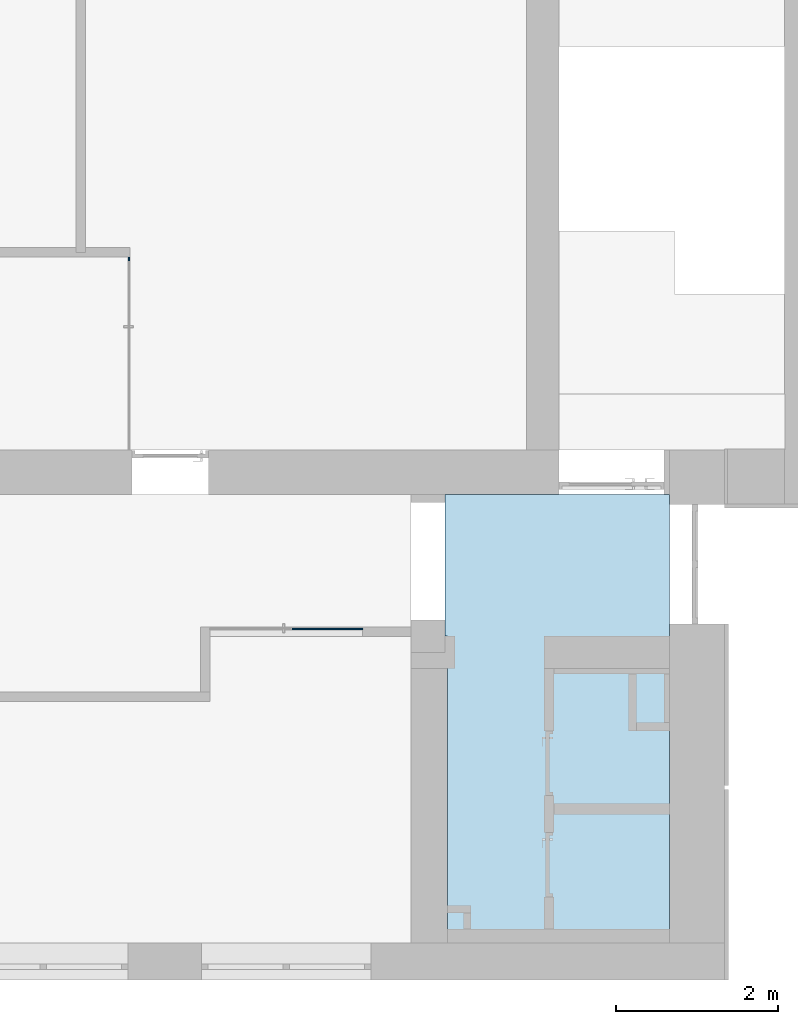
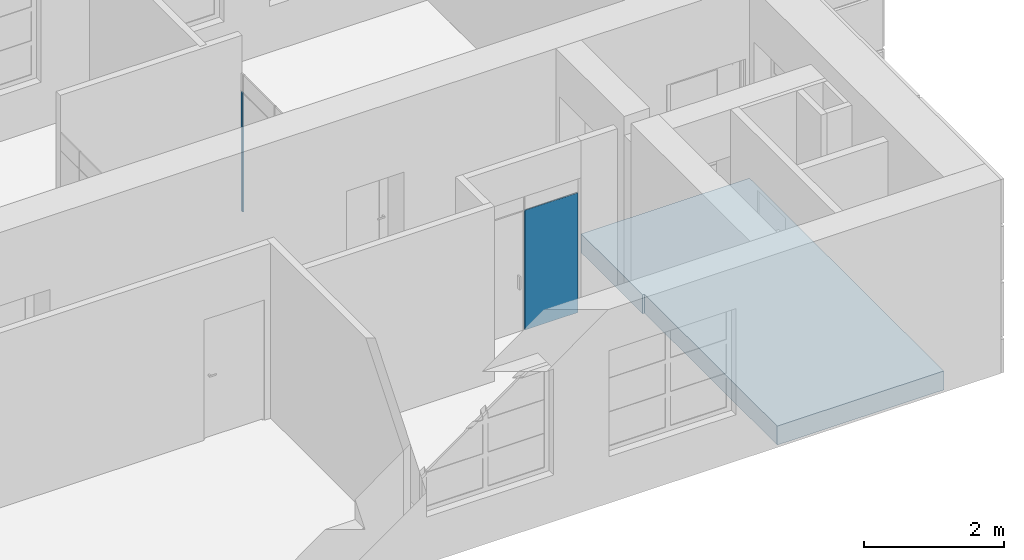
# One storey, part 26 of 66: 2 plates, 1 slab, 2 elements without a shape of their own.
"""IFC2X3 building model written with IfcOpenShell, lengths in millimetres."""

import ifcopenshell
import ifcopenshell.guid

model = None  # the IFC model being written
_history = None  # IfcOwnerHistory: only IFC2X3 demands one
_inside = {}  # id of a spatial element -> (the spatial element, [elements in it])
_under = {}  # id of a project, library or spatial element -> (it, [spatial elements below it])
_declared = {}  # id of a project -> (the project, [libraries it declares])
_typed = {}  # id of a type object -> (the type object, [elements of that type])
_made_of = {}  # id of a material, layer set ... -> (it, [elements and type objects made of it])


def new_model(schema):
    """Start an empty IFC model of exactly this schema.

    Asked for "IFC4X3", IfcOpenShell would pick the latest addendum, in which some entities
    have other attributes; the version numbers below select the first issue.
    IFC2X3 requires an IfcOwnerHistory on every rooted entity: one is made here for all.
    """
    global model, _history
    if schema == "IFC4X3":
        model = ifcopenshell.file(schema_version=(4, 3, 0, 0))
    else:
        model = ifcopenshell.file(schema=schema)
    _inside.clear()
    _under.clear()
    _declared.clear()
    _typed.clear()
    _made_of.clear()
    _history = None
    if model.schema == "IFC2X3":
        org = make("IfcOrganization", Name="unknown")
        user = make(
            "IfcPersonAndOrganization",
            ThePerson=make("IfcPerson", FamilyName="unknown"),
            TheOrganization=org,
        )
        app = make(
            "IfcApplication",
            ApplicationDeveloper=org,
            Version="unknown",
            ApplicationFullName="unknown",
            ApplicationIdentifier="unknown",
        )
        _history = make(
            "IfcOwnerHistory",
            OwningUser=user,
            OwningApplication=app,
            ChangeAction="ADDED",
            CreationDate=0,
        )
    return model


def make(cls, **values):
    """One entity of the class cls with the attributes given. An attribute that is None is left unset."""
    return model.create_entity(
        cls, **{name: value for name, value in values.items() if value is not None}
    )


def entity(cls, *values):
    """Any entity or typed value of the class cls, its attributes in the order of the schema. None: left unset."""
    e = model.create_entity(cls)
    for i, value in enumerate(values):
        if value is not None:
            e[i] = value
    return e


def rooted(cls, **values):
    """An entity with a GlobalId (a new one), such as an element, a storey or a relation."""
    return make(cls, GlobalId=ifcopenshell.guid.new(), OwnerHistory=_history, **values)


def si_unit(unit_type, name, prefix=None):
    """IfcSIUnit, for example si_unit("LENGTHUNIT", "METRE", prefix="MILLI")."""
    return make("IfcSIUnit", UnitType=unit_type, Prefix=prefix, Name=name)


def converted_unit(unit_type, name, factor, base, dimensions=None, offset=None):
    """IfcConversionBasedUnit, such as the inch: factor (a typed value) times the base unit."""
    return make(
        "IfcConversionBasedUnit"
        if offset is None
        else "IfcConversionBasedUnitWithOffset",
        ConversionOffset=offset,
        Dimensions=None
        if dimensions is None
        else entity("IfcDimensionalExponents", *dimensions),
        UnitType=unit_type,
        Name=name,
        ConversionFactor=make(
            "IfcMeasureWithUnit", ValueComponent=factor, UnitComponent=base
        ),
    )


def derived_unit(unit_type, elements):
    """IfcDerivedUnit: a product of units, each with its exponent."""
    return make(
        "IfcDerivedUnit",
        Elements=[
            make("IfcDerivedUnitElement", Unit=unit, Exponent=power)
            for unit, power in elements
        ],
        UnitType=unit_type,
    )


def assignment(units):
    """IfcUnitAssignment: the units of a project."""
    return None if units is None else make("IfcUnitAssignment", Units=units)


def point(xyz):
    """IfcCartesianPoint."""
    return None if xyz is None else make("IfcCartesianPoint", Coordinates=xyz)


def direction(xyz):
    """IfcDirection."""
    return None if xyz is None else make("IfcDirection", DirectionRatios=xyz)


def frame(location, z_axis=None, x_axis=None):
    """IfcAxis2Placement3D, a coordinate frame: its origin and axes. An axis left out is left unset."""
    return make(
        "IfcAxis2Placement3D",
        Location=point(location),
        Axis=direction(z_axis),
        RefDirection=direction(x_axis),
    )


def frame_2d(location, x_axis=None):
    """IfcAxis2Placement2D, a coordinate frame in the plane: its origin and x axis."""
    return make(
        "IfcAxis2Placement2D", Location=point(location), RefDirection=direction(x_axis)
    )


def origin():
    """The frame at (0, 0, 0) with its axes left unset."""
    return frame((0.0, 0.0, 0.0))


def origin_2d_with_axis():
    """The frame at (0, 0) in the plane with the x axis (1, 0) written out."""
    return frame_2d((0.0, 0.0), x_axis=(1.0, 0.0))


def place(relative_to, where):
    """IfcLocalPlacement: puts the frame where relative to a parent placement (None: the world)."""
    return make(
        "IfcLocalPlacement", PlacementRelTo=relative_to, RelativePlacement=where
    )


def context(
    kind, dimensions, precision=None, world=None, true_north=None, identifier=None
):
    """IfcGeometricRepresentationContext, for example the 3D "Model" context."""
    return make(
        "IfcGeometricRepresentationContext",
        ContextIdentifier=identifier,
        ContextType=kind,
        CoordinateSpaceDimension=dimensions,
        Precision=precision,
        WorldCoordinateSystem=world,
        TrueNorth=true_north,
    )


def subcontext(parent, identifier, kind, view, scale=None):
    """IfcGeometricRepresentationSubContext, for example "Body" below "Model"."""
    return make(
        "IfcGeometricRepresentationSubContext",
        ContextIdentifier=identifier,
        ContextType=kind,
        ParentContext=parent,
        TargetScale=scale,
        TargetView=view,
    )


def project(units=None, contexts=None):
    """IfcProject with its units and contexts."""
    return rooted(
        "IfcProject",
        Name="project",
        RepresentationContexts=contexts,
        UnitsInContext=assignment(units),
    )


def spatial(cls, under=None, at=None, **own):
    """A site, building, storey or space (cls), placed at a placement, below another one or the project."""
    s = rooted(cls, ObjectPlacement=at, **own)
    if under is not None:
        _under.setdefault(under.id(), (under, []))[1].append(s)
    return s


def polyline(points):
    """IfcPolyline through the points."""
    return make("IfcPolyline", Points=[point(p) for p in points])


def profile(cls, at=None, kind="AREA", **sizes):
    """A parametric profile (cls). Its sizes go by their IFC names, for example OverallWidth=200.0."""
    return make(cls, ProfileType=kind, Position=at, **sizes)


def rectangle(**sizes):
    """IfcRectangleProfileDef."""
    return profile("IfcRectangleProfileDef", **sizes)


def outline(outer, holes=None, kind="AREA"):
    """IfcArbitraryClosedProfileDef: a profile drawn as a closed curve; with holes, ...WithVoids."""
    if holes is None:
        return make("IfcArbitraryClosedProfileDef", ProfileType=kind, OuterCurve=outer)
    return make(
        "IfcArbitraryProfileDefWithVoids",
        ProfileType=kind,
        OuterCurve=outer,
        InnerCurves=holes,
    )


def extrude(swept, where, along, depth):
    """IfcExtrudedAreaSolid: the profile swept, set in the frame where, extruded along a direction by depth."""
    return make(
        "IfcExtrudedAreaSolid",
        SweptArea=swept,
        Position=where,
        ExtrudedDirection=direction(along),
        Depth=depth,
    )


def shape(context_of_items, identifier, shape_type, items):
    """IfcShapeRepresentation: the items that make up one representation, for example the "Body"."""
    return make(
        "IfcShapeRepresentation",
        ContextOfItems=context_of_items,
        RepresentationIdentifier=identifier,
        RepresentationType=shape_type,
        Items=items,
    )


def source(mapping_origin, context_of_items, identifier, shape_type, items):
    """IfcRepresentationMap: a shape defined once, which mapped items show again and again."""
    return make(
        "IfcRepresentationMap",
        MappingOrigin=mapping_origin,
        MappedRepresentation=shape(context_of_items, identifier, shape_type, items),
    )


def transform(
    local_origin,
    x_axis=None,
    y_axis=None,
    z_axis=None,
    scale=None,
    scale2=None,
    scale3=None,
    uniform=True,
):
    """IfcCartesianTransformationOperator3D, or its non-uniform kind. x_axis, y_axis, z_axis: its Axis1, 2, 3."""
    if uniform:
        return make(
            "IfcCartesianTransformationOperator3D",
            Axis1=direction(x_axis),
            Axis2=direction(y_axis),
            LocalOrigin=point(local_origin),
            Scale=scale,
            Axis3=direction(z_axis),
        )
    return make(
        "IfcCartesianTransformationOperator3DnonUniform",
        Axis1=direction(x_axis),
        Axis2=direction(y_axis),
        LocalOrigin=point(local_origin),
        Scale=scale,
        Axis3=direction(z_axis),
        Scale2=scale2,
        Scale3=scale3,
    )


def mapped(mapping_source, mapping_target):
    """IfcMappedItem: shows the shape of a source again, moved by a transform."""
    return make(
        "IfcMappedItem", MappingSource=mapping_source, MappingTarget=mapping_target
    )


def material(Name=None, Category=None):
    """IfcMaterial."""
    return make("IfcMaterial", Name=Name, Category=Category)


def layer(
    of_material, thickness, ventilated=None, Name=None, Category=None, Priority=None
):
    """IfcMaterialLayer: one layer of a wall or slab, of a material (None: an air gap)."""
    return make(
        "IfcMaterialLayer",
        Material=of_material,
        LayerThickness=thickness,
        IsVentilated=ventilated,
        Name=Name,
        Category=Category,
        Priority=Priority,
    )


def layer_set(layers, Name=None):
    """IfcMaterialLayerSet."""
    return make("IfcMaterialLayerSet", MaterialLayers=layers, LayerSetName=Name)


def layer_usage(for_layer_set, set_direction, sense, offset, extent=None):
    """IfcMaterialLayerSetUsage: how a layer set lies in its element."""
    return make(
        "IfcMaterialLayerSetUsage",
        ForLayerSet=for_layer_set,
        LayerSetDirection=set_direction,
        DirectionSense=sense,
        OffsetFromReferenceLine=offset,
        ReferenceExtent=extent,
    )


def made_of(thing, what):
    """Note that an element or type object is made of a material, layer set ...; save() writes the relation."""
    if what is not None:
        _made_of.setdefault(what.id(), (what, []))[1].append(thing)
    return thing


def type_object(cls, material=None, **own):
    """A type object (cls), such as IfcWallType, which elements share."""
    return made_of(rooted(cls, **own), material)


def type_shapes(of_type, sources):
    """Give a type object the sources (RepresentationMaps) that its elements show as mapped items."""
    of_type.RepresentationMaps = sources


def element(
    cls,
    number,
    at=None,
    inside=None,
    cuts=None,
    type_object=None,
    material=None,
    context=None,
    identifier="Body",
    shape_type=None,
    held_by="IfcProductDefinitionShape",
    body=None,
    shapes=None,
    **own,
):
    """One element of the class cls, such as IfcWall. Its Tag is "e" and its number.

    at: its placement. inside: the storey or other place that contains it. cuts: it is an
    opening in that element (IfcRelVoidsElement). A single representation is given by context,
    identifier, shape_type and body (its items); several are given by shapes. held_by: the class
    of the entity that holds the representations. save() writes the other relations.
    """
    e = rooted(cls, Tag="e%d" % number, ObjectPlacement=at, **own)
    if body is not None:
        shapes = [shape(context, identifier, shape_type, body)]
    if shapes is not None:
        e.Representation = make(held_by, Representations=shapes)
    if inside is not None:
        _inside.setdefault(inside.id(), (inside, []))[1].append(e)
    if cuts is not None:
        rooted(
            "IfcRelVoidsElement", RelatingBuildingElement=cuts, RelatedOpeningElement=e
        )
    if type_object is not None:
        _typed.setdefault(type_object.id(), (type_object, []))[1].append(e)
    return made_of(e, material)


def aggregate(whole, parts):
    """IfcRelAggregates: a whole, such as a stair, and the parts it consists of."""
    return rooted("IfcRelAggregates", RelatingObject=whole, RelatedObjects=parts)


def save(model, path):
    """Write the relations noted so far, then the file.

    IfcRelAggregates (storeys below a building ...), IfcRelContainedInSpatialStructure (elements
    in a storey), IfcRelDefinesByType, IfcRelAssociatesMaterial and IfcRelDeclares: one each for
    every whole, place, type object, material and project.
    """
    for whole, parts in _under.values():
        aggregate(whole, parts)
    for where, things in _inside.values():
        rooted(
            "IfcRelContainedInSpatialStructure",
            RelatedElements=things,
            RelatingStructure=where,
        )
    for kind, things in _typed.values():
        rooted("IfcRelDefinesByType", RelatedObjects=things, RelatingType=kind)
    for what, things in _made_of.values():
        rooted("IfcRelAssociatesMaterial", RelatedObjects=things, RelatingMaterial=what)
    for by, libraries in _declared.values():
        rooted("IfcRelDeclares", RelatingContext=by, RelatedDefinitions=libraries)
    model.write(path)


model = new_model("IFC2X3")

# Units and contexts
model_context = context("Model", 3, precision=0.01, world=origin(), true_north=direction((6.12303176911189e-17, 1.0)))
body_context = subcontext(model_context, "Body", "Model", "MODEL_VIEW")
ifc_project = project(units=[si_unit("LENGTHUNIT", "METRE", prefix="MILLI"), si_unit("AREAUNIT", "SQUARE_METRE"), si_unit("VOLUMEUNIT", "CUBIC_METRE"), converted_unit("PLANEANGLEUNIT", "DEGREE", entity("IfcRatioMeasure", 0.0174532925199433), si_unit("PLANEANGLEUNIT", "RADIAN"), dimensions=[0, 0, 0, 0, 0, 0, 0]), si_unit("MASSUNIT", "GRAM", prefix="KILO"), derived_unit("MASSDENSITYUNIT", [(si_unit("MASSUNIT", "GRAM", prefix="KILO"), 1), (si_unit("LENGTHUNIT", "METRE"), -3)]), si_unit("TIMEUNIT", "SECOND"), si_unit("FREQUENCYUNIT", "HERTZ"), si_unit("THERMODYNAMICTEMPERATUREUNIT", "DEGREE_CELSIUS"), derived_unit("THERMALTRANSMITTANCEUNIT", [(si_unit("MASSUNIT", "GRAM", prefix="KILO"), 1), (si_unit("THERMODYNAMICTEMPERATUREUNIT", "KELVIN"), -1), (si_unit("TIMEUNIT", "SECOND"), -3)]), derived_unit("VOLUMETRICFLOWRATEUNIT", [(si_unit("LENGTHUNIT", "METRE"), 3), (si_unit("TIMEUNIT", "SECOND"), -1)]), si_unit("ELECTRICCURRENTUNIT", "AMPERE"), si_unit("ELECTRICVOLTAGEUNIT", "VOLT"), si_unit("POWERUNIT", "WATT"), si_unit("FORCEUNIT", "NEWTON", prefix="KILO"), si_unit("ILLUMINANCEUNIT", "LUX"), si_unit("LUMINOUSFLUXUNIT", "LUMEN"), si_unit("LUMINOUSINTENSITYUNIT", "CANDELA"), derived_unit("USERDEFINED", [(si_unit("MASSUNIT", "GRAM", prefix="KILO"), -1), (si_unit("LENGTHUNIT", "METRE"), -2), (si_unit("TIMEUNIT", "SECOND"), 3), (si_unit("LUMINOUSFLUXUNIT", "LUMEN"), 1)]), derived_unit("LINEARVELOCITYUNIT", [(si_unit("LENGTHUNIT", "METRE"), 1), (si_unit("TIMEUNIT", "SECOND"), -1)]), si_unit("PRESSUREUNIT", "PASCAL"), derived_unit("USERDEFINED", [(si_unit("LENGTHUNIT", "METRE"), -2), (si_unit("MASSUNIT", "GRAM", prefix="KILO"), 1), (si_unit("TIMEUNIT", "SECOND"), -2)])], contexts=[model_context])

# Site, building, storey
site_placement = place(None, frame((-151.875543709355, 2715.0, 0.0)))
site = spatial("IfcSite", under=ifc_project, at=site_placement, Name="Surface", CompositionType="ELEMENT")
building_placement = place(site_placement, origin())
building = spatial("IfcBuilding", under=site, at=building_placement, CompositionType="ELEMENT")
storey_placement = place(building_placement, frame((0.0, 0.0, 3350.0)))
storey = spatial("IfcBuildingStorey", under=building, at=storey_placement, Name="2 korrus", CompositionType="ELEMENT", Elevation=3350.00000000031)

# Curtain wall, plate
curtain_wall_type_1 = type_object("IfcCurtainWallType", Name="Curtain Wall:Klaassein KLS-11", PredefinedType="NOTDEFINED")
curtain_wall_1_placement = place(storey_placement, frame((0.0, 0.0, -3350.0)))
curtain_wall_1 = element("IfcCurtainWall", 1, at=curtain_wall_1_placement, inside=storey, type_object=curtain_wall_type_1, Name="Curtain Wall:Klaassein KLS-11", ObjectType="Curtain Wall:Klaassein KLS-11")
ifc_material_1 = material(Name="<Unnamed>")
ifc_layer_1 = layer(ifc_material_1, 20.0)
ifc_layer_set_1 = layer_set([ifc_layer_1], Name="Curtain Wall:Klaassein KLS-01")
ifc_layer_usage_1 = layer_usage(ifc_layer_set_1, "AXIS3", "POSITIVE", 0.0)
plate_type_1 = type_object("IfcPlateType", Name="Glazed", PredefinedType="CURTAIN_PANEL", material=ifc_layer_set_1)
shared_shape_1 = source(origin(), body_context, "Body", "SweptSolid", [
    extrude(rectangle(XDim=20.0, YDim=878.452432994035, at=origin_2d_with_axis()), frame((0.0, 0.0, 0.0), z_axis=(0.0, 0.0, 1.0), x_axis=(0.0, 1.0, 0.0)), (0.0, 0.0, 1.0), 2090.0),
])
type_shapes(plate_type_1, [shared_shape_1])
plate_1_placement = place(curtain_wall_1_placement, frame((29504.790942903, 4345.04493399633, 3350.0), z_axis=(0.0, 0.0, 1.0), x_axis=(-1.0, 0.0, 0.0)))
plate_1 = element("IfcPlate", 2, at=plate_1_placement, type_object=plate_type_1, material=ifc_layer_usage_1, Name="System Panel:Glazed", ObjectType="Glazed", context=body_context, shape_type="MappedRepresentation", body=[
    mapped(shared_shape_1, transform((0.0, 0.0, 0.0), scale=1.0)),
])
aggregate(curtain_wall_1, [plate_1])

curtain_wall_type_2 = type_object("IfcCurtainWallType", Name="Curtain Wall:Klaassein KLS-05", PredefinedType="NOTDEFINED")
curtain_wall_2_placement = place(storey_placement, frame((0.0, 0.0, -3350.0)))
curtain_wall_2 = element("IfcCurtainWall", 3, at=curtain_wall_2_placement, inside=storey, type_object=curtain_wall_type_2, Name="Curtain Wall:Klaassein KLS-05", ObjectType="Curtain Wall:Klaassein KLS-05")
ifc_layer_usage_2 = layer_usage(ifc_layer_set_1, "AXIS3", "POSITIVE", 0.0)
plate_type_2 = type_object("IfcPlateType", Name="Glazed", PredefinedType="CURTAIN_PANEL", material=ifc_layer_set_1)
shared_shape_2 = source(origin(), body_context, "Body", "SweptSolid", [
    extrude(rectangle(XDim=20.0, YDim=51.0000000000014, at=origin_2d_with_axis()), frame((0.0, 0.0, 0.0), z_axis=(0.0, 0.0, 1.0), x_axis=(0.0, 1.0, 0.0)), (0.0, 0.0, 1.0), 2080.0),
])
type_shapes(plate_type_2, [shared_shape_2])
plate_2_placement = place(curtain_wall_2_placement, frame((27053.2859998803, 8919.4999999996, 3350.0), z_axis=(0.0, 0.0, 1.0), x_axis=(0.0, 1.0, 0.0)))
plate_2 = element("IfcPlate", 4, at=plate_2_placement, type_object=plate_type_2, material=ifc_layer_usage_2, Name="System Panel:Glazed", ObjectType="Glazed", context=body_context, shape_type="MappedRepresentation", body=[
    mapped(shared_shape_2, transform((0.0, 0.0, 0.0), scale=1.0)),
])
aggregate(curtain_wall_2, [plate_2])

# Slab
ifc_material_2 = material(Name="Viimistlus")
ifc_layer_2 = layer(ifc_material_2, 20.0)
ifc_material_3 = material(Name="Betoon")
ifc_layer_3 = layer(ifc_material_3, 30.0)
ifc_material_4 = material(Name="Helisummutusvill")
ifc_layer_4 = layer(ifc_material_4, 30.0)
ifc_material_5 = material(Name="__Kergkruus")
ifc_layer_5 = layer(ifc_material_5, 30.0)
ifc_material_6 = material(Name="Betoon paneel")
ifc_layer_6 = layer(ifc_material_6, 220.0)
ifc_layer_set_2 = layer_set([ifc_layer_2, ifc_layer_3, ifc_layer_4, ifc_layer_5, ifc_layer_6], Name="Floor:VL-1_vahelagi olemasolevas hoones")
ifc_layer_usage_3 = layer_usage(ifc_layer_set_2, "AXIS3", "POSITIVE", 0.0)
slab_placement = place(storey_placement, origin())
element("IfcSlab", 5, at=slab_placement, inside=storey, material=ifc_layer_usage_3, Name="Floor:VL-1_vahelagi olemasolevas hoones", ObjectType="Floor:VL-1_vahelagi olemasolevas hoones", PredefinedType="FLOOR", context=body_context, shape_type="SweptSolid", body=[
    extrude(outline(polyline([(679.260388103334, -935.866369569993), (2435.41748966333, -935.866369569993), (2435.41748966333, 1841.73273914), (-3114.67787776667, 1841.73273914), (-3114.67787776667, -905.866369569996), (679.260388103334, -905.866369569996), (679.260388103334, -935.866369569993)])), frame((31899.88352897, 3574.58251033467, 0.0), z_axis=(0.0, 0.0, -1.0), x_axis=(0.0, 1.0, 0.0)), (0.0, 0.0, 1.0), 330.0),
])

save(model, "model.ifc")
